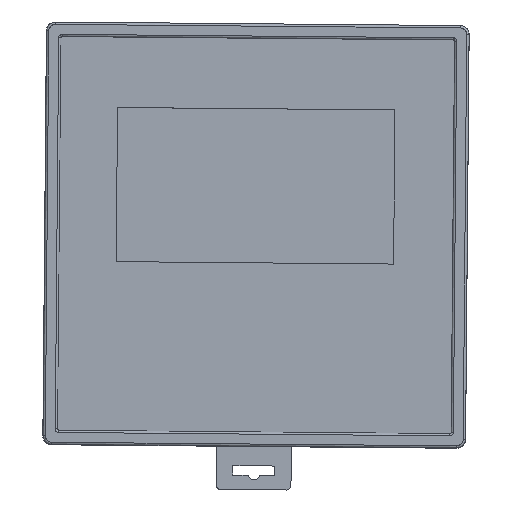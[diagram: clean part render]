
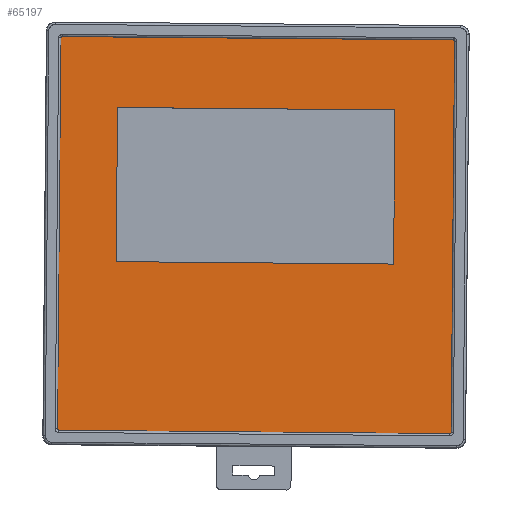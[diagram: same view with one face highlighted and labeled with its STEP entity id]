
A CAD part, top view. The second image highlights one B-rep face of the part: STEP entity #65197.
In plain terms, the highlighted planar face has unit normal (0, 0, 1).
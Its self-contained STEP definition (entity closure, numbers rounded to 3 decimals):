
#4252 = FACE_OUTER_BOUND ( 'NONE', #65198, .T. ) ;
#4259 = PLANE ( 'NONE',  #4414 ) ;
#4261 = FACE_BOUND ( 'NONE', #65237, .T. ) ;
#4336 = CARTESIAN_POINT ( 'NONE',  ( 17.55, 44.628, 0. ) ) ;
#4338 = DIRECTION ( 'NONE',  ( 1., 0., 0. ) ) ;
#4340 = DIRECTION ( 'NONE',  ( 0., 0., 1. ) ) ;
#4343 = CARTESIAN_POINT ( 'NONE',  ( 17.55, 44.328, 0. ) ) ;
#4344 = AXIS2_PLACEMENT_3D ( 'NONE', #4343, #4340, #4338 ) ;
#4345 = CIRCLE ( 'NONE', #4344, 0.3 ) ;
#4350 = CARTESIAN_POINT ( 'NONE',  ( 17.85, 44.328, 0. ) ) ;
#4352 = DIRECTION ( 'NONE',  ( 0., 1., 0. ) ) ;
#4353 = VECTOR ( 'NONE', #4352, 1000. ) ;
#4354 = CARTESIAN_POINT ( 'NONE',  ( 17.849, -44.472, 0. ) ) ;
#4356 = LINE ( 'NONE', #4354, #4353 ) ;
#4366 = CARTESIAN_POINT ( 'NONE',  ( 17.849, -44.472, 0. ) ) ;
#4369 = CARTESIAN_POINT ( 'NONE',  ( 17.549, -44.772, 0. ) ) ;
#4371 = DIRECTION ( 'NONE',  ( 1., 0., 0. ) ) ;
#4373 = DIRECTION ( 'NONE',  ( 0., 0., 1. ) ) ;
#4374 = CARTESIAN_POINT ( 'NONE',  ( 17.549, -44.472, 0. ) ) ;
#4376 = AXIS2_PLACEMENT_3D ( 'NONE', #4374, #4373, #4371 ) ;
#4382 = DIRECTION ( 'NONE',  ( 1., 0., 0. ) ) ;
#4383 = CIRCLE ( 'NONE', #4376, 0.3 ) ;
#4410 = DIRECTION ( 'NONE',  ( 0., 0., 1. ) ) ;
#4413 = CARTESIAN_POINT ( 'NONE',  ( -26.85, -0.072, 0. ) ) ;
#4414 = AXIS2_PLACEMENT_3D ( 'NONE', #4413, #4410, #4382 ) ;
#4474 = CARTESIAN_POINT ( 'NONE',  ( -71.55, 44.329, 0. ) ) ;
#4477 = DIRECTION ( 'NONE',  ( 1., 0., 0. ) ) ;
#4480 = DIRECTION ( 'NONE',  ( 0., 0., 1. ) ) ;
#4482 = CARTESIAN_POINT ( 'NONE',  ( -71.25, 44.329, 0. ) ) ;
#4485 = AXIS2_PLACEMENT_3D ( 'NONE', #4482, #4480, #4477 ) ;
#4486 = CIRCLE ( 'NONE', #4485, 0.3 ) ;
#4491 = CARTESIAN_POINT ( 'NONE',  ( -71.25, 44.629, 0. ) ) ;
#4495 = DIRECTION ( 'NONE',  ( -1., 0., 0. ) ) ;
#4496 = VECTOR ( 'NONE', #4495, 1000. ) ;
#4497 = CARTESIAN_POINT ( 'NONE',  ( 17.55, 44.628, 0. ) ) ;
#4498 = LINE ( 'NONE', #4497, #4496 ) ;
#4518 = CARTESIAN_POINT ( 'NONE',  ( -55.551, -31.772, 0. ) ) ;
#4522 = CARTESIAN_POINT ( 'NONE',  ( -20.551, -31.772, 0. ) ) ;
#4524 = DIRECTION ( 'NONE',  ( -1., 0., 0. ) ) ;
#4526 = VECTOR ( 'NONE', #4524, 1000. ) ;
#4528 = CARTESIAN_POINT ( 'NONE',  ( -55.551, -31.772, 0. ) ) ;
#4530 = LINE ( 'NONE', #4528, #4526 ) ;
#4538 = DIRECTION ( 'NONE',  ( 1., 0., 0. ) ) ;
#4541 = VECTOR ( 'NONE', #4538, 1000. ) ;
#4545 = CARTESIAN_POINT ( 'NONE',  ( -71.251, -44.771, 0. ) ) ;
#4546 = LINE ( 'NONE', #4545, #4541 ) ;
#4548 = CARTESIAN_POINT ( 'NONE',  ( -71.251, -44.771, 0. ) ) ;
#4550 = DIRECTION ( 'NONE',  ( 1., 0., 0. ) ) ;
#4553 = DIRECTION ( 'NONE',  ( 0., 0., 1. ) ) ;
#4555 = CARTESIAN_POINT ( 'NONE',  ( -71.251, -44.471, 0. ) ) ;
#4556 = AXIS2_PLACEMENT_3D ( 'NONE', #4555, #4553, #4550 ) ;
#4558 = CIRCLE ( 'NONE', #4556, 0.3 ) ;
#4564 = CARTESIAN_POINT ( 'NONE',  ( -71.551, -44.471, 0. ) ) ;
#4565 = DIRECTION ( 'NONE',  ( 0., -1., 0. ) ) ;
#4566 = VECTOR ( 'NONE', #4565, 1000. ) ;
#4567 = CARTESIAN_POINT ( 'NONE',  ( -71.55, 44.329, 0. ) ) ;
#4568 = LINE ( 'NONE', #4567, #4566 ) ;
#5048 = LINE ( 'NONE', #5196, #5195 ) ;
#5163 = DIRECTION ( 'NONE',  ( 0., -1., 0. ) ) ;
#5164 = VECTOR ( 'NONE', #5163, 1000. ) ;
#5165 = CARTESIAN_POINT ( 'NONE',  ( -20.551, 31.228, 0. ) ) ;
#5166 = LINE ( 'NONE', #5165, #5164 ) ;
#5170 = CARTESIAN_POINT ( 'NONE',  ( -20.551, 31.228, 0. ) ) ;
#5174 = DIRECTION ( 'NONE',  ( 1., 0., 0. ) ) ;
#5176 = VECTOR ( 'NONE', #5174, 1000. ) ;
#5178 = CARTESIAN_POINT ( 'NONE',  ( -55.55, 31.228, 0. ) ) ;
#5180 = LINE ( 'NONE', #5178, #5176 ) ;
#5189 = CARTESIAN_POINT ( 'NONE',  ( -55.55, 31.228, 0. ) ) ;
#5192 = DIRECTION ( 'NONE',  ( 0., 1., 0. ) ) ;
#5195 = VECTOR ( 'NONE', #5192, 1000. ) ;
#5196 = CARTESIAN_POINT ( 'NONE',  ( -55.55, 31.228, 0. ) ) ;
#65197 = ADVANCED_FACE ( 'NONE', ( #4252, #4261 ), #4259, .T. ) ;
#65198 = EDGE_LOOP ( 'NONE', ( #65199, #65203, #65206, #65209, #65212, #65229, #65232, #65235 ) ) ;
#65199 = ORIENTED_EDGE ( 'NONE', *, *, #65200, .T. ) ;
#65200 = EDGE_CURVE ( 'NONE', #65201, #65202, #4383, .T. ) ;
#65201 = VERTEX_POINT ( 'NONE', #4369 ) ;
#65202 = VERTEX_POINT ( 'NONE', #4366 ) ;
#65203 = ORIENTED_EDGE ( 'NONE', *, *, #65204, .T. ) ;
#65204 = EDGE_CURVE ( 'NONE', #65202, #65205, #4356, .T. ) ;
#65205 = VERTEX_POINT ( 'NONE', #4350 ) ;
#65206 = ORIENTED_EDGE ( 'NONE', *, *, #65207, .T. ) ;
#65207 = EDGE_CURVE ( 'NONE', #65205, #65208, #4345, .T. ) ;
#65208 = VERTEX_POINT ( 'NONE', #4336 ) ;
#65209 = ORIENTED_EDGE ( 'NONE', *, *, #65210, .T. ) ;
#65210 = EDGE_CURVE ( 'NONE', #65208, #65211, #4498, .T. ) ;
#65211 = VERTEX_POINT ( 'NONE', #4491 ) ;
#65212 = ORIENTED_EDGE ( 'NONE', *, *, #65213, .T. ) ;
#65213 = EDGE_CURVE ( 'NONE', #65211, #65214, #4486, .T. ) ;
#65214 = VERTEX_POINT ( 'NONE', #4474 ) ;
#65229 = ORIENTED_EDGE ( 'NONE', *, *, #65230, .T. ) ;
#65230 = EDGE_CURVE ( 'NONE', #65214, #65231, #4568, .T. ) ;
#65231 = VERTEX_POINT ( 'NONE', #4564 ) ;
#65232 = ORIENTED_EDGE ( 'NONE', *, *, #65233, .T. ) ;
#65233 = EDGE_CURVE ( 'NONE', #65231, #65234, #4558, .T. ) ;
#65234 = VERTEX_POINT ( 'NONE', #4548 ) ;
#65235 = ORIENTED_EDGE ( 'NONE', *, *, #65236, .T. ) ;
#65236 = EDGE_CURVE ( 'NONE', #65234, #65201, #4546, .T. ) ;
#65237 = EDGE_LOOP ( 'NONE', ( #65238, #65242, #65355, #65358 ) ) ;
#65238 = ORIENTED_EDGE ( 'NONE', *, *, #65239, .T. ) ;
#65239 = EDGE_CURVE ( 'NONE', #65240, #65241, #4530, .T. ) ;
#65240 = VERTEX_POINT ( 'NONE', #4522 ) ;
#65241 = VERTEX_POINT ( 'NONE', #4518 ) ;
#65242 = ORIENTED_EDGE ( 'NONE', *, *, #65353, .T. ) ;
#65353 = EDGE_CURVE ( 'NONE', #65241, #65354, #5048, .T. ) ;
#65354 = VERTEX_POINT ( 'NONE', #5189 ) ;
#65355 = ORIENTED_EDGE ( 'NONE', *, *, #65356, .T. ) ;
#65356 = EDGE_CURVE ( 'NONE', #65354, #65357, #5180, .T. ) ;
#65357 = VERTEX_POINT ( 'NONE', #5170 ) ;
#65358 = ORIENTED_EDGE ( 'NONE', *, *, #65359, .T. ) ;
#65359 = EDGE_CURVE ( 'NONE', #65357, #65240, #5166, .T. ) ;
